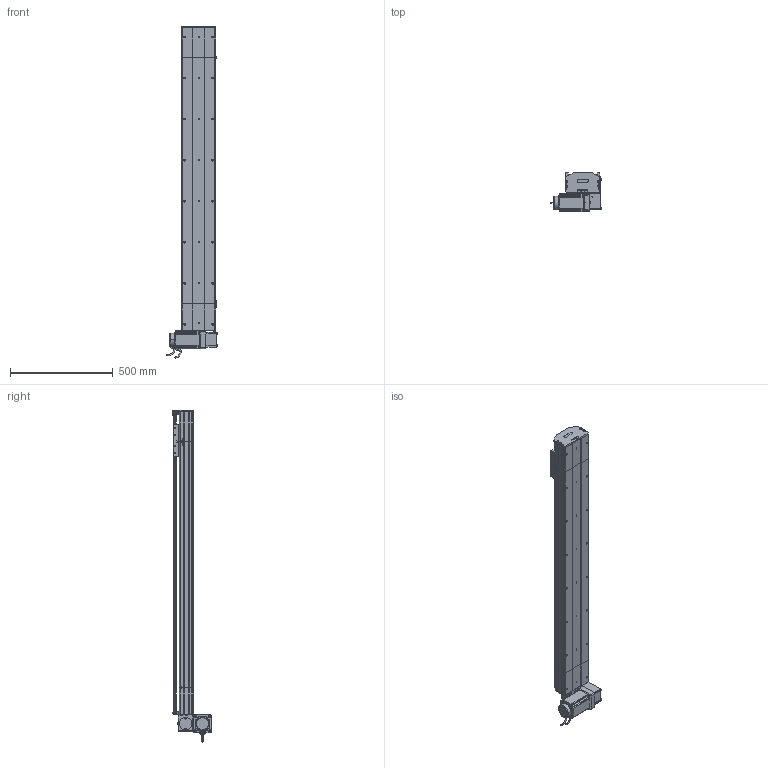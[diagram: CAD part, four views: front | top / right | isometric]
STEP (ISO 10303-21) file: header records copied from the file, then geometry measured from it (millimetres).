
FILE_DESCRIPTION (( 'STEP AP214' ), '1' );
FILE_NAME ('D17 TBH LU S1200.STEP', '2010-06-30T07:56:24', ( 'Christophe Gaillard' ), ( 'SGA' ), 'SwSTEP 2.0', 'SolidWorks 2010', '' );
FILE_SCHEMA (( 'AUTOMOTIVE_DESIGN' ));
Length unit declared in the file: millimetre
Products named in the file (40): vis M5 L12_Default; guide D17; Chariot D17; chariot D17S_Default; vis M5 L25_Default; poulie tail_Default; plaque de  bout tail D17B_Default; Rail D17B; vis M5 L8 90°_Default; couvercle D17B_Default; Couroie tail D17B_Default; tete d''axe poulie D17B; corpl tail D17B_Default; Tail D17B_Default; Vis M5 L16-2_Default; vis M5 L16_Default; Plaque racord D17_Default; vis M5 L70_Default; D17 TBH LU S1200; corp D17B 1200_Default; Couroie+ rail D17 Course 200 ; course 1200 D17B_Default; corpl head D17 _Default; Head LU D17B_Default; couvercle D17B course L1200_Default; Arbre+rail head D17B; plaque de  bout head D17B LU_Default; couvercle D17B head_Default; poulie head_Default; vis M5 L5_Default; cache D17_Default; Renvoi LU_Default; couroie head D17_Default; cache arbre D17_Default; corps 90BLDC125A-640; avant 90BLDC125A-640; Moteur motionking 90BLDC125A-640; Conecteur_Default; Conecteur2_Default; codeur 90BLDC125-640
Assembly tree (70 placements, depth 4):
  D17 TBH LU S1200
    Head LU D17B_Default
      vis M5 L70_Default  x4
      Vis M5 L16-2_Default  x4
      vis M5 L5_Default  x4
      Arbre+rail head D17B
      couvercle D17B head_Default
      vis M5 L12_Default  x8
      cache arbre D17_Default
      Renvoi LU_Default
      vis M5 L16_Default  x2
      vis M5 L25_Default  x2
      plaque de  bout head D17B LU_Default
      cache D17_Default  x2
      poulie head_Default
      Plaque racord D17_Default
      Moteur motionking 90BLDC125A-640
        corps 90BLDC125A-640
        Conecteur_Default
        codeur 90BLDC125-640
        Conecteur2_Default
        avant 90BLDC125A-640
      couroie head D17_Default
      corpl head D17 _Default
    chariot D17S_Default
      vis M5 L12_Default  x4
      guide D17  x2
      Chariot D17
    Tail D17B_Default
      vis M5 L8 90°_Default  x2
      corpl tail D17B_Default
      Rail D17B
      tete d''axe poulie D17B
      vis M5 L12_Default  x4
      plaque de  bout tail D17B_Default
      vis M5 L25_Default  x2
      couvercle D17B_Default
      Couroie tail D17B_Default
      poulie tail_Default
    course 1200 D17B_Default
      Couroie+ rail D17 Course 200 
      corp D17B 1200_Default
      couvercle D17B course L1200_Default
Bounding box: 245.2 x 188.65 x 1617.95 mm (x, y, z)
Volume: 10150009 mm3; surface area: 2848560.9 mm2
Topology: 94 solids, 94 shells, 2665 faces, 6689 edges, 4306 vertices
Faces by surface type: plane 1607, cylinder 745, bspline 136, cone 88, torus 85, sphere 4
Entity records: 83256 total; most frequent: CARTESIAN_POINT 24685, ORIENTED_EDGE 10150, DIRECTION 9644, EDGE_CURVE 5075, VECTOR 3406, LINE 3406, VERTEX_POINT 3330, AXIS2_PLACEMENT_3D 3119
